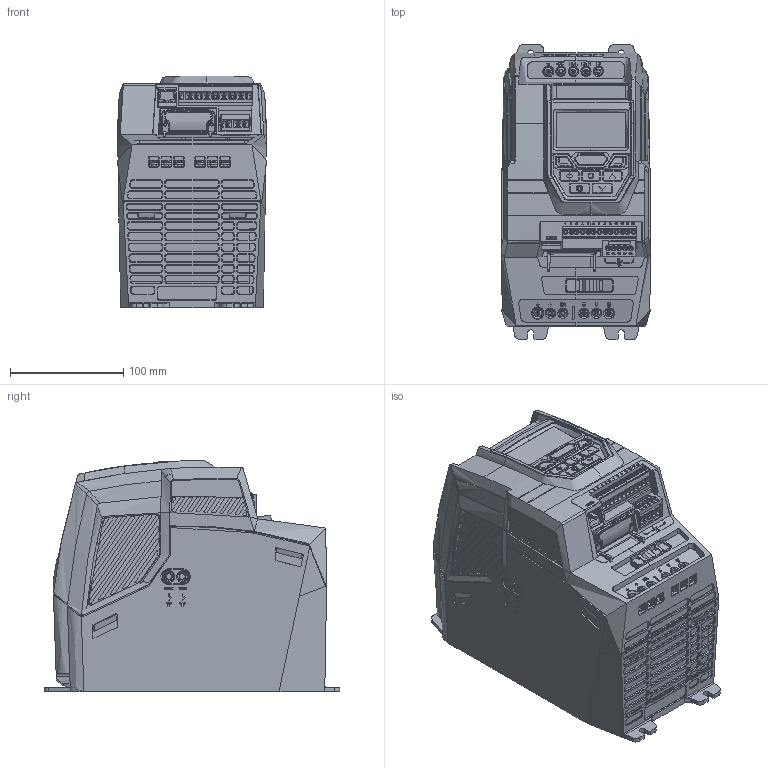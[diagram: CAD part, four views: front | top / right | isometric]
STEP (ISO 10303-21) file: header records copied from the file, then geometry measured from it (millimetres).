
FILE_DESCRIPTION (( 'STEP AP203' ), '1' );
FILE_NAME ('P2.IP20.SIZE3.TFT (ENVELOPE).STEP', '2020-05-01T14:52:48', ( '' ), ( '' ), 'SwSTEP 2.0', 'SolidWorks 2020', '' );
FILE_SCHEMA (( 'CONFIG_CONTROL_DESIGN' ));
Length unit declared in the file: millimetre
Products named in the file (1): P2.IP20.SIZE3.TFT (ENVELOPE)
Bounding box: 132.08 x 261 x 204.57 mm (x, y, z)
Volume: 5183081 mm3; surface area: 263221.8 mm2
Topology: 1 solids, 44 shells, 6321 faces, 16597 edges, 10712 vertices
Faces by surface type: plane 3741, bspline 1489, cylinder 954, cone 99, torus 32, sphere 6
Full cylindrical faces by diameter (mm): 1.52 x1, 2 x1, 2.8 x2, 3.5 x2, 3.85 x13, 3.9 x5, 4 x18, 6.8 x5, 7 x10, 8.3 x2, 8.85 x1, 9.65 x1, 10.75 x1
Entity records: 277236 total; most frequent: CARTESIAN_POINT 140541, ORIENTED_EDGE 32742, DIRECTION 20408, EDGE_CURVE 16371, VERTEX_POINT 10632, VECTOR 8934, LINE 8934, EDGE_LOOP 6895
